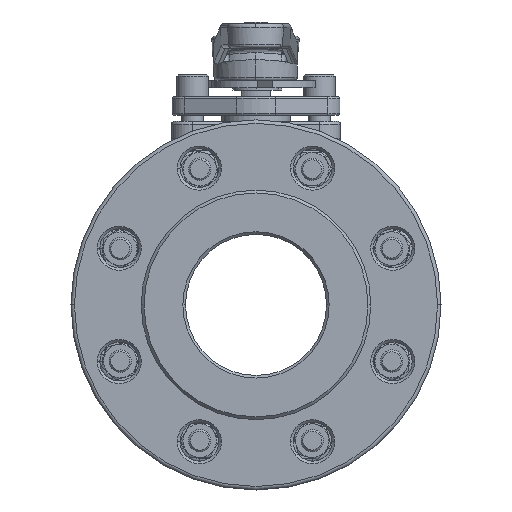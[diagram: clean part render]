
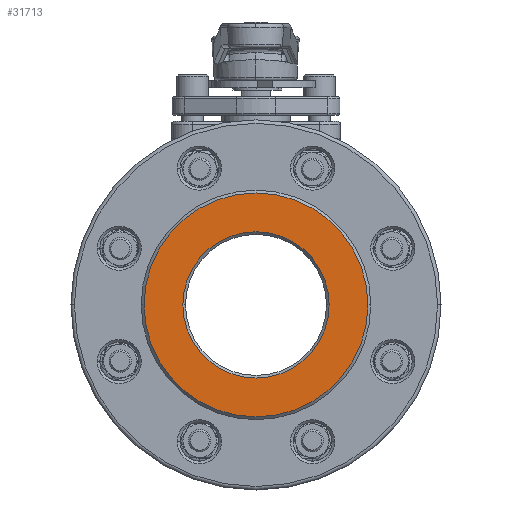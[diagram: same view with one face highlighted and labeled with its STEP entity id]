
A CAD part, left-side view. The second image highlights one B-rep face of the part: STEP entity #31713.
In plain terms, the highlighted planar face has unit normal (-1, 0, 0).
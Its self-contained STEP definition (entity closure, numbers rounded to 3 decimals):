
#27034 = VERTEX_POINT('',#27035);
#27035 = CARTESIAN_POINT('',(-154.9,-41.5,0.));
#27042 = CONICAL_SURFACE('',#27043,41.5,0.785);
#27043 = AXIS2_PLACEMENT_3D('',#27044,#27045,#27046);
#27044 = CARTESIAN_POINT('',(-154.9,0.,
    0.));
#27045 = DIRECTION('',(-1.,0.,0.));
#27046 = DIRECTION('',(0.,-1.,0.));
#27054 = CONICAL_SURFACE('',#27055,41.5,0.785);
#27055 = AXIS2_PLACEMENT_3D('',#27056,#27057,#27058);
#27056 = CARTESIAN_POINT('',(-154.9,0.,
    0.));
#27057 = DIRECTION('',(-1.,0.,0.));
#27058 = DIRECTION('',(0.,-1.,0.));
#27066 = EDGE_CURVE('',#27034,#27067,#27069,.T.);
#27067 = VERTEX_POINT('',#27068);
#27068 = CARTESIAN_POINT('',(-154.9,41.5,0.));
#27069 = SURFACE_CURVE('',#27070,(#27075,#27082),.PCURVE_S1.);
#27070 = CIRCLE('',#27071,41.5);
#27071 = AXIS2_PLACEMENT_3D('',#27072,#27073,#27074);
#27072 = CARTESIAN_POINT('',(-154.9,0.,
    0.));
#27073 = DIRECTION('',(1.,0.,0.));
#27074 = DIRECTION('',(0.,1.,0.));
#27075 = PCURVE('',#27042,#27076);
#27076 = DEFINITIONAL_REPRESENTATION('',(#27077),#27081);
#27077 = LINE('',#27078,#27079);
#27078 = CARTESIAN_POINT('',(9.425,0.));
#27079 = VECTOR('',#27080,1.);
#27080 = DIRECTION('',(-1.,0.));
#27081 = ( GEOMETRIC_REPRESENTATION_CONTEXT(2) 
PARAMETRIC_REPRESENTATION_CONTEXT() REPRESENTATION_CONTEXT('2D SPACE',''
  ) );
#27082 = PCURVE('',#27083,#27088);
#27083 = PLANE('',#27084);
#27084 = AXIS2_PLACEMENT_3D('',#27085,#27086,#27087);
#27085 = CARTESIAN_POINT('',(-154.9,0.,63.501)
  );
#27086 = DIRECTION('',(1.,0.,0.));
#27087 = DIRECTION('',(0.,1.,0.));
#27088 = DEFINITIONAL_REPRESENTATION('',(#27089),#27093);
#27089 = CIRCLE('',#27090,41.5);
#27090 = AXIS2_PLACEMENT_2D('',#27091,#27092);
#27091 = CARTESIAN_POINT('',(0.,-63.501));
#27092 = DIRECTION('',(1.,0.));
#27093 = ( GEOMETRIC_REPRESENTATION_CONTEXT(2) 
PARAMETRIC_REPRESENTATION_CONTEXT() REPRESENTATION_CONTEXT('2D SPACE',''
  ) );
#29713 = EDGE_CURVE('',#29714,#29716,#29718,.T.);
#29714 = VERTEX_POINT('',#29715);
#29715 = CARTESIAN_POINT('',(-154.9,63.5,0.001));
#29716 = VERTEX_POINT('',#29717);
#29717 = CARTESIAN_POINT('',(-154.9,-63.5,0.001));
#29718 = SURFACE_CURVE('',#29719,(#29724,#29736),.PCURVE_S1.);
#29719 = CIRCLE('',#29720,63.5);
#29720 = AXIS2_PLACEMENT_3D('',#29721,#29722,#29723);
#29721 = CARTESIAN_POINT('',(-154.9,0.,
    0.001));
#29722 = DIRECTION('',(1.,0.,0.));
#29723 = DIRECTION('',(0.,1.,0.));
#29724 = PCURVE('',#29725,#29730);
#29725 = CONICAL_SURFACE('',#29726,63.5,0.785);
#29726 = AXIS2_PLACEMENT_3D('',#29727,#29728,#29729);
#29727 = CARTESIAN_POINT('',(-154.9,0.,
    0.001));
#29728 = DIRECTION('',(1.,0.,0.));
#29729 = DIRECTION('',(0.,1.,0.));
#29730 = DEFINITIONAL_REPRESENTATION('',(#29731),#29735);
#29731 = LINE('',#29732,#29733);
#29732 = CARTESIAN_POINT('',(0.,0.));
#29733 = VECTOR('',#29734,1.);
#29734 = DIRECTION('',(1.,0.));
#29735 = ( GEOMETRIC_REPRESENTATION_CONTEXT(2) 
PARAMETRIC_REPRESENTATION_CONTEXT() REPRESENTATION_CONTEXT('2D SPACE',''
  ) );
#29736 = PCURVE('',#27083,#29737);
#29737 = DEFINITIONAL_REPRESENTATION('',(#29738),#29742);
#29738 = CIRCLE('',#29739,63.5);
#29739 = AXIS2_PLACEMENT_2D('',#29740,#29741);
#29740 = CARTESIAN_POINT('',(0.,-63.5));
#29741 = DIRECTION('',(1.,0.));
#29742 = ( GEOMETRIC_REPRESENTATION_CONTEXT(2) 
PARAMETRIC_REPRESENTATION_CONTEXT() REPRESENTATION_CONTEXT('2D SPACE',''
  ) );
#29760 = CONICAL_SURFACE('',#29761,63.5,0.785);
#29761 = AXIS2_PLACEMENT_3D('',#29762,#29763,#29764);
#29762 = CARTESIAN_POINT('',(-154.9,0.,
    0.001));
#29763 = DIRECTION('',(1.,0.,0.));
#29764 = DIRECTION('',(0.,1.,0.));
#31713 = ADVANCED_FACE('',(#31714,#31739),#27083,.F.);
#31714 = FACE_BOUND('',#31715,.T.);
#31715 = EDGE_LOOP('',(#31716,#31717));
#31716 = ORIENTED_EDGE('',*,*,#27066,.T.);
#31717 = ORIENTED_EDGE('',*,*,#31718,.T.);
#31718 = EDGE_CURVE('',#27067,#27034,#31719,.T.);
#31719 = SURFACE_CURVE('',#31720,(#31725,#31732),.PCURVE_S1.);
#31720 = CIRCLE('',#31721,41.5);
#31721 = AXIS2_PLACEMENT_3D('',#31722,#31723,#31724);
#31722 = CARTESIAN_POINT('',(-154.9,0.,
    0.));
#31723 = DIRECTION('',(1.,0.,0.));
#31724 = DIRECTION('',(0.,1.,0.));
#31725 = PCURVE('',#27083,#31726);
#31726 = DEFINITIONAL_REPRESENTATION('',(#31727),#31731);
#31727 = CIRCLE('',#31728,41.5);
#31728 = AXIS2_PLACEMENT_2D('',#31729,#31730);
#31729 = CARTESIAN_POINT('',(0.,-63.501));
#31730 = DIRECTION('',(1.,0.));
#31731 = ( GEOMETRIC_REPRESENTATION_CONTEXT(2) 
PARAMETRIC_REPRESENTATION_CONTEXT() REPRESENTATION_CONTEXT('2D SPACE',''
  ) );
#31732 = PCURVE('',#27054,#31733);
#31733 = DEFINITIONAL_REPRESENTATION('',(#31734),#31738);
#31734 = LINE('',#31735,#31736);
#31735 = CARTESIAN_POINT('',(3.142,0.));
#31736 = VECTOR('',#31737,1.);
#31737 = DIRECTION('',(-1.,0.));
#31738 = ( GEOMETRIC_REPRESENTATION_CONTEXT(2) 
PARAMETRIC_REPRESENTATION_CONTEXT() REPRESENTATION_CONTEXT('2D SPACE',''
  ) );
#31739 = FACE_BOUND('',#31740,.T.);
#31740 = EDGE_LOOP('',(#31741,#31742));
#31741 = ORIENTED_EDGE('',*,*,#29713,.F.);
#31742 = ORIENTED_EDGE('',*,*,#31743,.F.);
#31743 = EDGE_CURVE('',#29716,#29714,#31744,.T.);
#31744 = SURFACE_CURVE('',#31745,(#31750,#31757),.PCURVE_S1.);
#31745 = CIRCLE('',#31746,63.5);
#31746 = AXIS2_PLACEMENT_3D('',#31747,#31748,#31749);
#31747 = CARTESIAN_POINT('',(-154.9,0.,
    0.001));
#31748 = DIRECTION('',(1.,0.,0.));
#31749 = DIRECTION('',(0.,1.,0.));
#31750 = PCURVE('',#27083,#31751);
#31751 = DEFINITIONAL_REPRESENTATION('',(#31752),#31756);
#31752 = CIRCLE('',#31753,63.5);
#31753 = AXIS2_PLACEMENT_2D('',#31754,#31755);
#31754 = CARTESIAN_POINT('',(0.,-63.5));
#31755 = DIRECTION('',(1.,0.));
#31756 = ( GEOMETRIC_REPRESENTATION_CONTEXT(2) 
PARAMETRIC_REPRESENTATION_CONTEXT() REPRESENTATION_CONTEXT('2D SPACE',''
  ) );
#31757 = PCURVE('',#29760,#31758);
#31758 = DEFINITIONAL_REPRESENTATION('',(#31759),#31763);
#31759 = LINE('',#31760,#31761);
#31760 = CARTESIAN_POINT('',(0.,0.));
#31761 = VECTOR('',#31762,1.);
#31762 = DIRECTION('',(1.,0.));
#31763 = ( GEOMETRIC_REPRESENTATION_CONTEXT(2) 
PARAMETRIC_REPRESENTATION_CONTEXT() REPRESENTATION_CONTEXT('2D SPACE',''
  ) );
